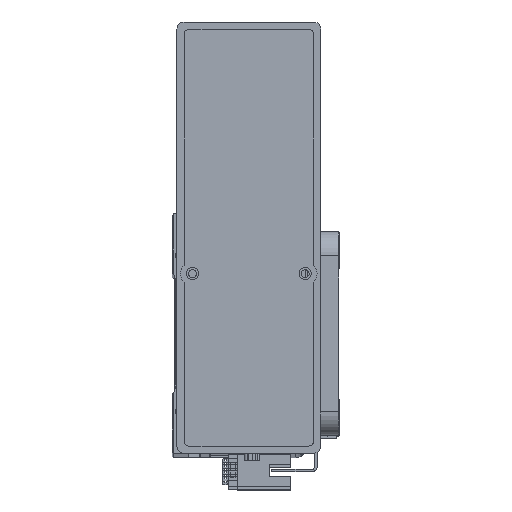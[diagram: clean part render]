
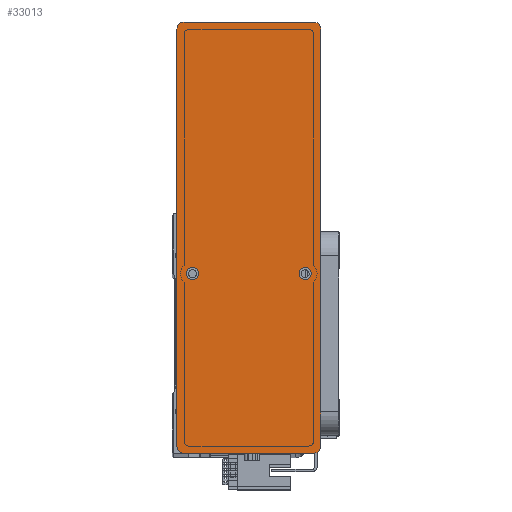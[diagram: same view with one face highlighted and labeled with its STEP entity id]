
A CAD part, top view. The second image highlights one B-rep face of the part: STEP entity #33013.
In plain terms, the highlighted planar face has unit normal (0, 0, 1) as drawn and (0, 0, -1) by its records, which use the part's own axes.
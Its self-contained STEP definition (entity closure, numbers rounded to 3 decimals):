
#1164 = ORIENTED_EDGE ( 'NONE', *, *, #15551, .T. ) ;
#1437 = AXIS2_PLACEMENT_3D ( 'NONE', #31995, #3376, #36847 ) ;
#2020 = CIRCLE ( 'NONE', #21391, 3. ) ;
#2537 = CARTESIAN_POINT ( 'NONE',  ( -90., -30., 0. ) ) ;
#2649 = VERTEX_POINT ( 'NONE', #37780 ) ;
#2714 = CARTESIAN_POINT ( 'NONE',  ( -12.5, -23.5, 0. ) ) ;
#3376 = DIRECTION ( 'NONE',  ( 0., 0., -1. ) ) ;
#3599 = DIRECTION ( 'NONE',  ( 0., 1., 0. ) ) ;
#3966 = DIRECTION ( 'NONE',  ( -1., 0., 0. ) ) ;
#4195 = EDGE_CURVE ( 'NONE', #60398, #56061, #41921, .T. ) ;
#4552 = DIRECTION ( 'NONE',  ( 0., 0., -1. ) ) ;
#5687 = CARTESIAN_POINT ( 'NONE',  ( -87., 30., 0. ) ) ;
#7036 = CIRCLE ( 'NONE', #42543, 2.5 ) ;
#7383 = DIRECTION ( 'NONE',  ( 0., -1., 0. ) ) ;
#8245 = AXIS2_PLACEMENT_3D ( 'NONE', #20839, #54276, #25602 ) ;
#8359 = ORIENTED_EDGE ( 'NONE', *, *, #52379, .F. ) ;
#8993 = EDGE_CURVE ( 'NONE', #49636, #49950, #22419, .T. ) ;
#9203 = FACE_BOUND ( 'NONE', #55777, .T. ) ;
#9603 = DIRECTION ( 'NONE',  ( -1., 0., 0. ) ) ;
#13222 = ORIENTED_EDGE ( 'NONE', *, *, #49983, .F. ) ;
#13485 = DIRECTION ( 'NONE',  ( 0., 0., -1. ) ) ;
#13530 = VERTEX_POINT ( 'NONE', #14975 ) ;
#13682 = DIRECTION ( 'NONE',  ( 0., 0., -1. ) ) ;
#14718 = CARTESIAN_POINT ( 'NONE',  ( 87., 27., 0. ) ) ;
#14975 = CARTESIAN_POINT ( 'NONE',  ( -12.5, 23.5, 0. ) ) ;
#15551 = EDGE_CURVE ( 'NONE', #41773, #2649, #42459, .T. ) ;
#15696 = AXIS2_PLACEMENT_3D ( 'NONE', #33155, #4552, #38026 ) ;
#15889 = EDGE_CURVE ( 'NONE', #13530, #33419, #43255, .T. ) ;
#16045 = EDGE_CURVE ( 'NONE', #60398, #30965, #28186, .T. ) ;
#16093 = VERTEX_POINT ( 'NONE', #19948 ) ;
#18071 = EDGE_CURVE ( 'NONE', #33419, #13530, #25264, .T. ) ;
#19065 = VECTOR ( 'NONE', #7383, 1000. ) ;
#19511 = DIRECTION ( 'NONE',  ( 1., 0., 0. ) ) ;
#19821 = AXIS2_PLACEMENT_3D ( 'NONE', #52818, #24164, #57671 ) ;
#19928 = VECTOR ( 'NONE', #3599, 1000. ) ;
#19948 = CARTESIAN_POINT ( 'NONE',  ( -17.5, -23.5, 0. ) ) ;
#20608 = LINE ( 'NONE', #2537, #19065 ) ;
#20839 = CARTESIAN_POINT ( 'NONE',  ( 87., -27., 0. ) ) ;
#21391 = AXIS2_PLACEMENT_3D ( 'NONE', #42330, #13682, #47149 ) ;
#22314 = EDGE_CURVE ( 'NONE', #41773, #30965, #56578, .T. ) ;
#22419 = CIRCLE ( 'NONE', #19821, 3. ) ;
#22547 = CARTESIAN_POINT ( 'NONE',  ( -90., -27., 0. ) ) ;
#22584 = EDGE_LOOP ( 'NONE', ( #26722, #35662 ) ) ;
#22795 = VERTEX_POINT ( 'NONE', #2714 ) ;
#23756 = CARTESIAN_POINT ( 'NONE',  ( 90., 30., 0. ) ) ;
#24164 = DIRECTION ( 'NONE',  ( 0., 0., -1. ) ) ;
#25125 = ORIENTED_EDGE ( 'NONE', *, *, #57471, .F. ) ;
#25264 = CIRCLE ( 'NONE', #15696, 2.5 ) ;
#25595 = VECTOR ( 'NONE', #49483, 1000. ) ;
#25602 = DIRECTION ( 'NONE',  ( 1., 0., 0. ) ) ;
#26256 = DIRECTION ( 'NONE',  ( 1., 0., 0. ) ) ;
#26722 = ORIENTED_EDGE ( 'NONE', *, *, #18071, .F. ) ;
#26916 = ORIENTED_EDGE ( 'NONE', *, *, #8993, .T. ) ;
#28186 = CIRCLE ( 'NONE', #34633, 3. ) ;
#29999 = CARTESIAN_POINT ( 'NONE',  ( -17.5, 23.5, 0. ) ) ;
#30965 = VERTEX_POINT ( 'NONE', #45805 ) ;
#31355 = ORIENTED_EDGE ( 'NONE', *, *, #4195, .F. ) ;
#31683 = ORIENTED_EDGE ( 'NONE', *, *, #45204, .T. ) ;
#31995 = CARTESIAN_POINT ( 'NONE',  ( -15., -23.5, 0. ) ) ;
#32046 = AXIS2_PLACEMENT_3D ( 'NONE', #50167, #54940, #26256 ) ;
#32212 = CARTESIAN_POINT ( 'NONE',  ( 90., -30., 0. ) ) ;
#32571 = DIRECTION ( 'NONE',  ( 0., 0., -1. ) ) ;
#33013 = ADVANCED_FACE ( 'NONE', ( #58611, #9203, #34575 ), #54736, .F. ) ;
#33155 = CARTESIAN_POINT ( 'NONE',  ( -15., 23.5, 0. ) ) ;
#33419 = VERTEX_POINT ( 'NONE', #29999 ) ;
#34575 = FACE_OUTER_BOUND ( 'NONE', #53659, .T. ) ;
#34633 = AXIS2_PLACEMENT_3D ( 'NONE', #14718, #48178, #19511 ) ;
#35662 = ORIENTED_EDGE ( 'NONE', *, *, #15889, .F. ) ;
#36847 = DIRECTION ( 'NONE',  ( -1., 0., 0. ) ) ;
#37780 = CARTESIAN_POINT ( 'NONE',  ( 87., -30., 0. ) ) ;
#38026 = DIRECTION ( 'NONE',  ( -1., 0., 0. ) ) ;
#38329 = LINE ( 'NONE', #44680, #25595 ) ;
#39099 = AXIS2_PLACEMENT_3D ( 'NONE', #42111, #13485, #46946 ) ;
#39866 = VERTEX_POINT ( 'NONE', #56964 ) ;
#41773 = VERTEX_POINT ( 'NONE', #48422 ) ;
#41841 = ORIENTED_EDGE ( 'NONE', *, *, #16045, .T. ) ;
#41921 = LINE ( 'NONE', #23756, #43455 ) ;
#42111 = CARTESIAN_POINT ( 'NONE',  ( -15., 23.5, 0. ) ) ;
#42330 = CARTESIAN_POINT ( 'NONE',  ( -87., 27., 0. ) ) ;
#42459 = CIRCLE ( 'NONE', #8245, 3. ) ;
#42543 = AXIS2_PLACEMENT_3D ( 'NONE', #61317, #32571, #3966 ) ;
#43255 = CIRCLE ( 'NONE', #39099, 2.5 ) ;
#43455 = VECTOR ( 'NONE', #9603, 1000. ) ;
#43597 = CARTESIAN_POINT ( 'NONE',  ( -87., -30., 0. ) ) ;
#44680 = CARTESIAN_POINT ( 'NONE',  ( 90., -30., 0. ) ) ;
#45204 = EDGE_CURVE ( 'NONE', #39866, #56061, #2020, .T. ) ;
#45805 = CARTESIAN_POINT ( 'NONE',  ( 90., 27., 0. ) ) ;
#46946 = DIRECTION ( 'NONE',  ( -1., 0., 0. ) ) ;
#47149 = DIRECTION ( 'NONE',  ( 1., 0., 0. ) ) ;
#48110 = ORIENTED_EDGE ( 'NONE', *, *, #22314, .F. ) ;
#48178 = DIRECTION ( 'NONE',  ( 0., 0., -1. ) ) ;
#48422 = CARTESIAN_POINT ( 'NONE',  ( 90., -27., 0. ) ) ;
#49483 = DIRECTION ( 'NONE',  ( 1., 0., 0. ) ) ;
#49636 = VERTEX_POINT ( 'NONE', #43597 ) ;
#49950 = VERTEX_POINT ( 'NONE', #22547 ) ;
#49983 = EDGE_CURVE ( 'NONE', #22795, #16093, #7036, .T. ) ;
#50167 = CARTESIAN_POINT ( 'NONE',  ( 0., 0., 0. ) ) ;
#52379 = EDGE_CURVE ( 'NONE', #49636, #2649, #38329, .T. ) ;
#52818 = CARTESIAN_POINT ( 'NONE',  ( -87., -27., 0. ) ) ;
#53052 = CARTESIAN_POINT ( 'NONE',  ( 87., 30., 0. ) ) ;
#53659 = EDGE_LOOP ( 'NONE', ( #48110, #1164, #8359, #26916, #57963, #31683, #31355, #41841 ) ) ;
#54276 = DIRECTION ( 'NONE',  ( 0., 0., -1. ) ) ;
#54736 = PLANE ( 'NONE',  #32046 ) ;
#54940 = DIRECTION ( 'NONE',  ( 0., 0., 1. ) ) ;
#55777 = EDGE_LOOP ( 'NONE', ( #25125, #13222 ) ) ;
#56061 = VERTEX_POINT ( 'NONE', #5687 ) ;
#56578 = LINE ( 'NONE', #32212, #19928 ) ;
#56964 = CARTESIAN_POINT ( 'NONE',  ( -90., 27., 0. ) ) ;
#57471 = EDGE_CURVE ( 'NONE', #16093, #22795, #61444, .T. ) ;
#57671 = DIRECTION ( 'NONE',  ( 1., 0., 0. ) ) ;
#57963 = ORIENTED_EDGE ( 'NONE', *, *, #59594, .F. ) ;
#58611 = FACE_BOUND ( 'NONE', #22584, .T. ) ;
#59594 = EDGE_CURVE ( 'NONE', #39866, #49950, #20608, .T. ) ;
#60398 = VERTEX_POINT ( 'NONE', #53052 ) ;
#61317 = CARTESIAN_POINT ( 'NONE',  ( -15., -23.5, 0. ) ) ;
#61444 = CIRCLE ( 'NONE', #1437, 2.5 ) ;
